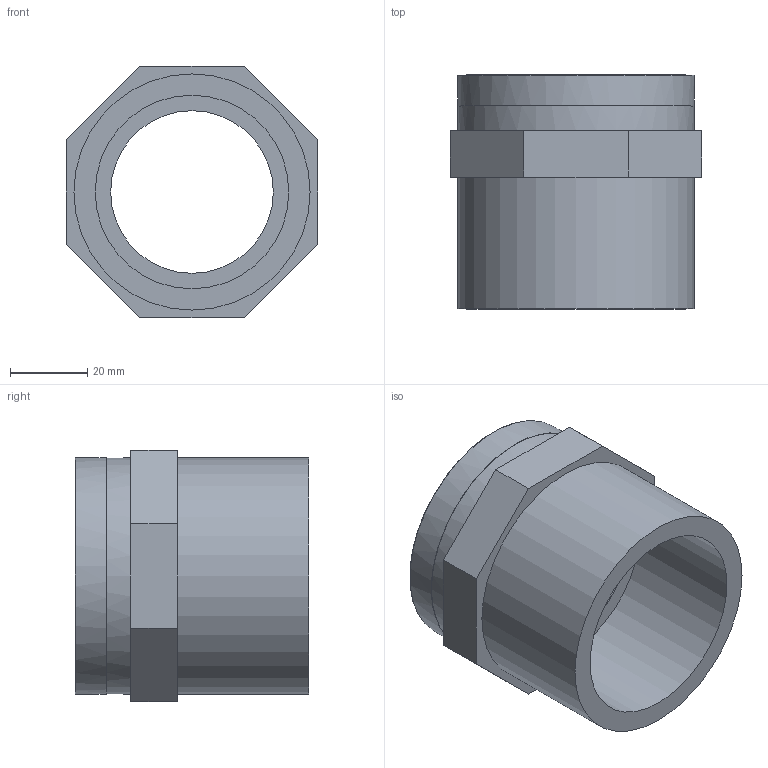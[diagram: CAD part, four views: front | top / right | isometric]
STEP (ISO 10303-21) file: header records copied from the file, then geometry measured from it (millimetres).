
FILE_DESCRIPTION(/* description */ (''),/* implementation_level */ '2;1');
FILE_NAME(/* name */ 'C:\Users\POLYPIPE\Desktop\DATASET INVENTOR\LIBRERIA EFFAST\RACCORDI 3DxWEB\RGR\3D_RGRMAR\3D_RGRMAR050F.stp',/* time_stamp */ '2018-01-19T17:52:47+01:00',/* author */ ('POLYPIPE'),/* organization */ (''),/* preprocessor_version */ 'ST-DEVELOPER v16.1',/* originating_system */ 'Autodesk Inventor 2016',/* authorisation */ '');
FILE_SCHEMA (('CONFIG_CONTROL_DESIGN'));
Length unit declared in the file: centimetre
Products named in the file (1): 3D_RGRMAR050F
Bounding box: 65 x 60.4 x 65 mm (x, y, z)
Volume: 74844.2 mm3; surface area: 27177.4 mm2
Topology: 1 solids, 1 shells, 30 faces, 63 edges, 41 vertices
Faces by surface type: plane 17, cylinder 7, bspline 5, torus 1
Full cylindrical faces by diameter (mm): 42 x1, 44.845 x1, 50 x1, 51 x1, 61 x2, 61.2 x1
Entity records: 4176 total; most frequent: CARTESIAN_POINT 3511, DIRECTION 113, ORIENTED_EDGE 110, EDGE_CURVE 55, EDGE_LOOP 45, AXIS2_PLACEMENT_3D 43, VERTEX_POINT 40, STYLED_ITEM 31
